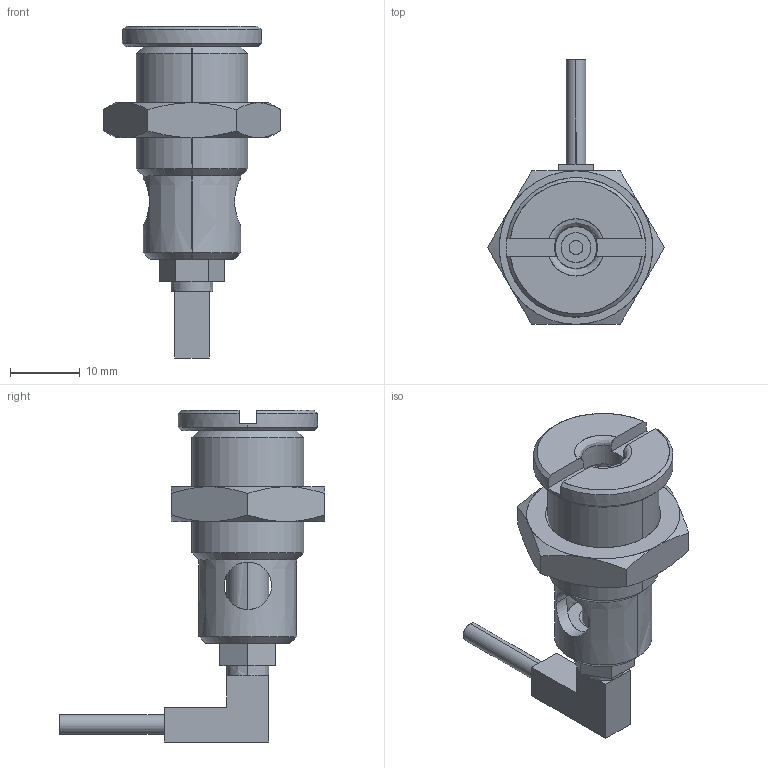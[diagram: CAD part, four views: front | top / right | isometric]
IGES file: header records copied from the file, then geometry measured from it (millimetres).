
Start section: SolidWorks IGES file using analytic representation for surfaces
Global section: file name: Y:\5.更新分\2023年対応\0405_諸々微修正分\QCWE0625-M16-SL\qcwe0625-m16-sl.IGS; native system: SolidWorks 2021; preprocessor: SolidWorks 2021; author: ImaoCorp; date: 230407.105607; units: millimetre
Bounding box: 25.4 x 38 x 47.6 mm (x, y, z)
Surface area: 5705.7 mm2 (no closed solid volume)
Topology: 0 solids, 0 shells, 130 faces, 1866 edges, 1866 vertices
Faces by surface type: revolution 72, bspline 58
